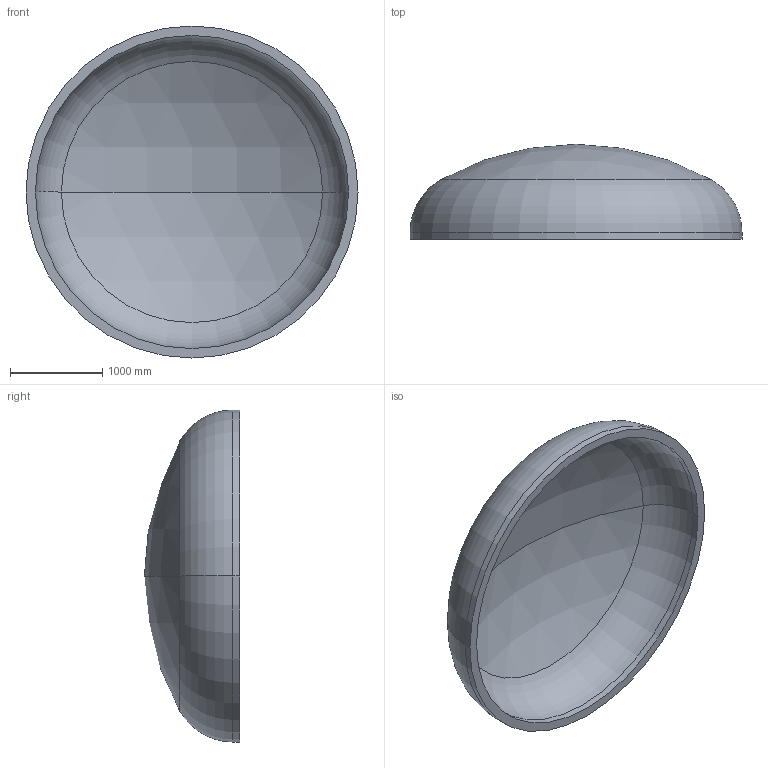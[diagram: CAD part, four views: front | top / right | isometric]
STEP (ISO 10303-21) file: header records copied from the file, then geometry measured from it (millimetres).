
FILE_DESCRIPTION (( 'STEP AP203' ), '1' );
FILE_NAME ('DIN 28013 Korbbogenform_-_Boden DIN 28013 - 3600 x 75 - I - s=102.step', '2016-07-01T20:49:44', ( '' ), ( '' ), 'SwSTEP 2.0', 'SolidWorks 2013', '' );
FILE_SCHEMA (( 'CONFIG_CONTROL_DESIGN' ));
Length unit declared in the file: millimetre
Products named in the file (1): DIN 28013 Korbbogenform_-_Boden DIN 28013 - 3600 x 75 - I - s=102
Bounding box: 3600 x 1032.36 x 3600 mm (x, y, z)
Volume: 1469986117.1 mm3; surface area: 29965945.1 mm2
Topology: 1 solids, 1 shells, 13 faces, 24 edges, 14 vertices
Faces by surface type: torus 4, cylinder 4, sphere 4, plane 1
Entity records: 407 total; most frequent: DIRECTION 72, CARTESIAN_POINT 52, ORIENTED_EDGE 48, AXIS2_PLACEMENT_3D 34, EDGE_CURVE 24, CIRCLE 20, VERTEX_POINT 14, EDGE_LOOP 14
